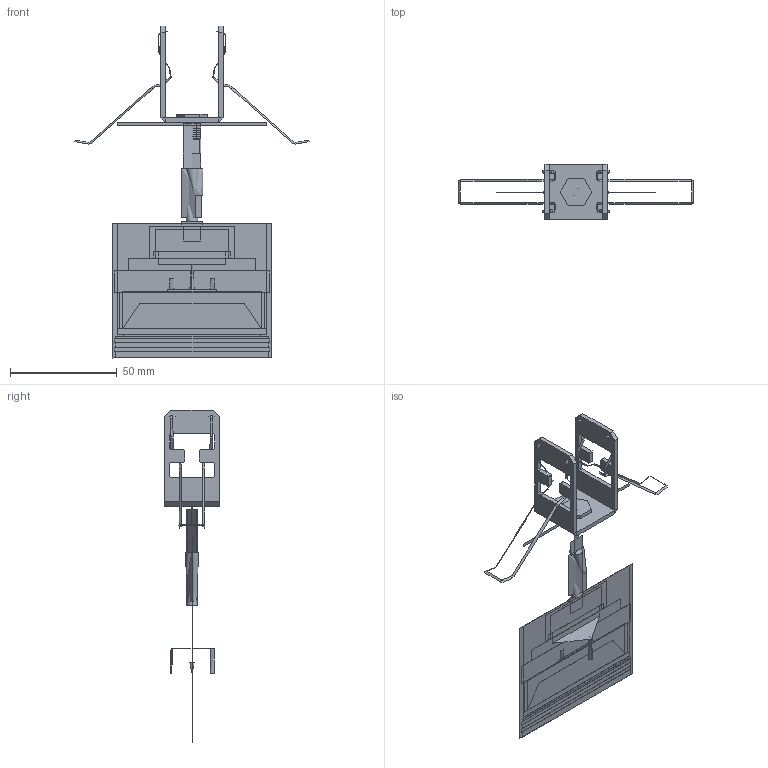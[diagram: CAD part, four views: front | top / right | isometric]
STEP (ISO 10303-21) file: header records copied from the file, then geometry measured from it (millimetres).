
FILE_DESCRIPTION(/* description */ (''),/* implementation_level */ '2;1');
FILE_NAME(/* name */ 'Mark R10',/* time_stamp */ '2025-06-18T18:02:36+02:00',/* author */ (''),/* organization */ (''),/* preprocessor_version */ 'ST-DEVELOPER v15',/* originating_system */ '',/* authorisation */ '');
FILE_SCHEMA (('CONFIG_CONTROL_DESIGN'));
Length unit declared in the file: millimetre
Products named in the file (1): Document
Bounding box: 110.21 x 26 x 155.18 mm (x, y, z)
Volume: 149638.3 mm3; surface area: 87625.7 mm2
Topology: 16 solids, 79 shells, 386 faces, 971 edges, 600 vertices
Faces by surface type: bspline 386
Entity records: 32943 total; most frequent: CARTESIAN_POINT 22088, B_SPLINE_CURVE_WITH_KNOTS 1834, ORIENTED_EDGE 1660, PCURVE 1660, DEFINITIONAL_REPRESENTATION 1660, SURFACE_CURVE 949, EDGE_CURVE 949, VERTEX_POINT 596
